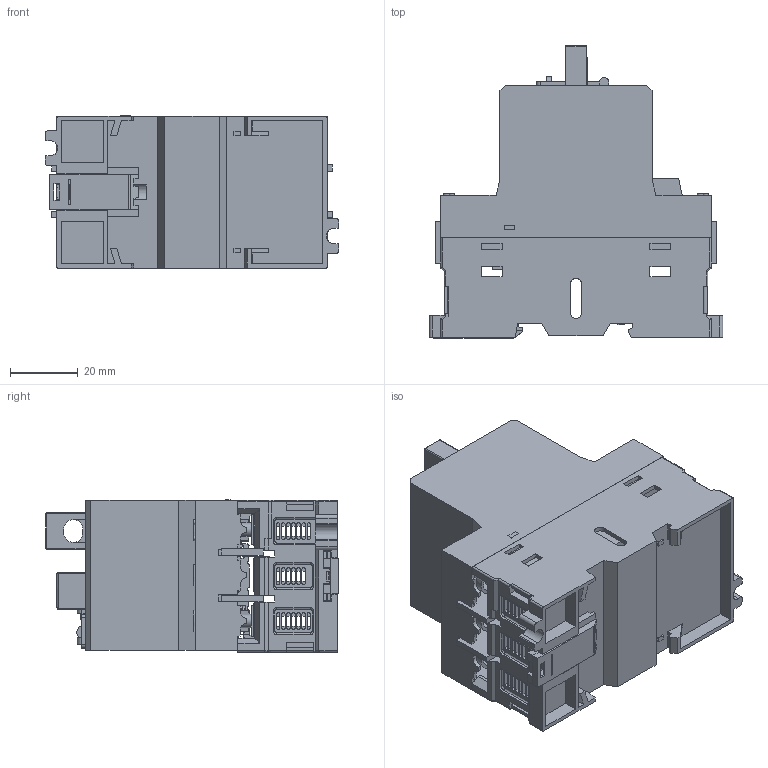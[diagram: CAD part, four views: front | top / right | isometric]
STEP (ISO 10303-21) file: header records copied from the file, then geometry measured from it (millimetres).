
FILE_DESCRIPTION((''),'2; 1');
FILE_NAME('','2026-03-27T11:22:11',(''),(''),'CST STEP Exporter V1.0','Unknown','');
FILE_SCHEMA(('CONFIG_CONTROL_DESIGN'));
Length unit declared in the file: metre
Assembly tree (34 placements, depth 2):
  (unnamed)
    (unnamed)
    (unnamed)
    (unnamed)
    (unnamed)
    (unnamed)
    (unnamed)
    (unnamed)
    (unnamed)
    (unnamed)
    (unnamed)
    (unnamed)
    (unnamed)
    (unnamed)
    (unnamed)
    (unnamed)
    (unnamed)
    (unnamed)
    (unnamed)
    (unnamed)
    (unnamed)
    (unnamed)
    (unnamed)
    (unnamed)
    (unnamed)
    (unnamed)
    (unnamed)
    (unnamed)
    (unnamed)
    (unnamed)
    (unnamed)
    (unnamed)
    (unnamed)
    (unnamed)
    (unnamed)
Bounding box: 87 x 86.49 x 45.1 mm (x, y, z)
Surface area: 110022.2 mm2 (no closed solid volume)
Topology: 0 solids, 34 shells, 999 faces, 4050 edges, 2989 vertices
Faces by surface type: plane 701, cylinder 242, extrusion 31, torus 20, sphere 4, bspline 1
Full cylindrical faces by diameter (mm): 2 x2, 3.2 x1, 3.5 x2, 4 x4, 4.8 x1, 7.5 x6, 9.5 x6
Entity records: 52202 total; most frequent: CARTESIAN_POINT 11357, ORIENTED_EDGE 6339, DIRECTION 6152, EDGE_CURVE 4011, VERTEX_POINT 2979, VECTOR 2942, LINE 2911, AXIS2_PLACEMENT_3D 1605
